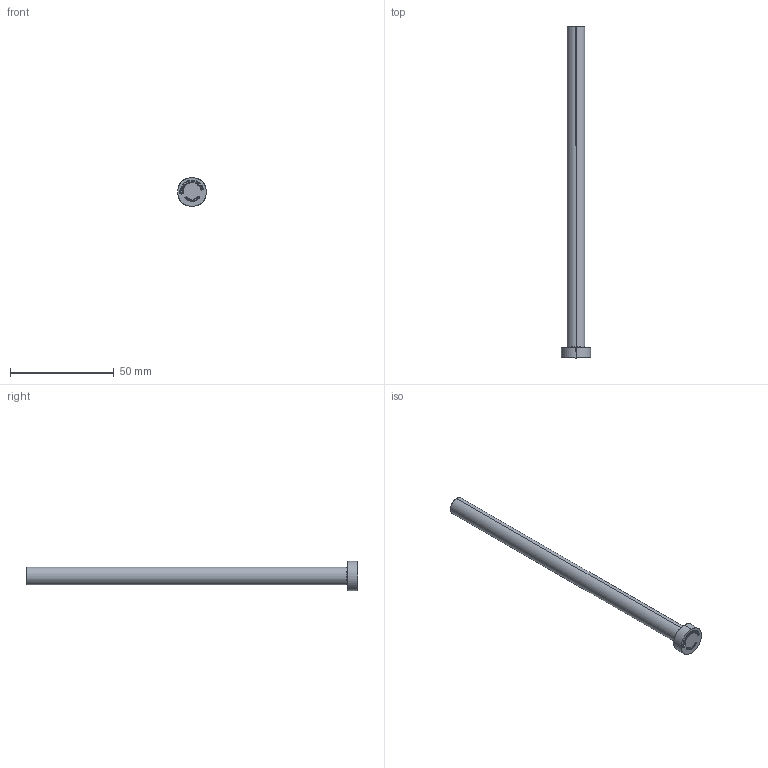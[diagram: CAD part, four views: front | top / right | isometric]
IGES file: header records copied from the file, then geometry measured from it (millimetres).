
Start section: SolidWorks IGES file using analytic representation for surfaces
Global section: file name: D:\Cleonir_particular\Matripeças\Pinos Extradores A DIN 1530\PA08,5160.IGS; native system: SolidWorks 2013; preprocessor: SolidWorks 2013; author: Cleonir; date: 130225.150243; units: millimetre
Bounding box: 14 x 160 x 14 mm (x, y, z)
Surface area: 4716.2 mm2 (no closed solid volume)
Topology: 0 solids, 0 shells, 291 faces, 3239 edges, 3239 vertices
Faces by surface type: bspline 279, revolution 12
